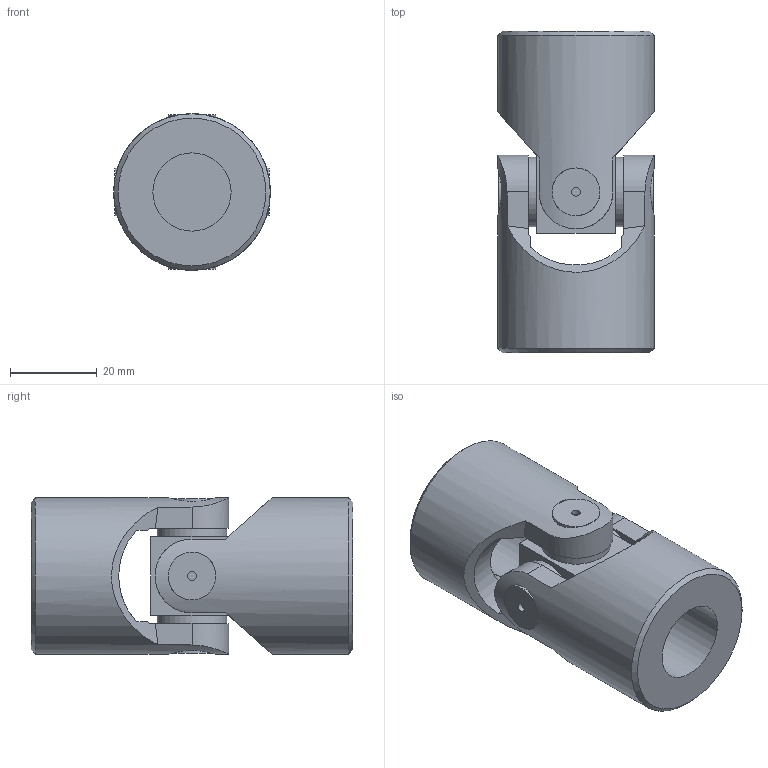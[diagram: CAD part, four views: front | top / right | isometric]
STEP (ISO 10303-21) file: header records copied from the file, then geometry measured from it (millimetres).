
FILE_DESCRIPTION(/* description */ ('EXTENSIBLE TRANSIMISSIONS Series G DIN 808 -2-'),/* implementation_level */ '2;1');
FILE_NAME(/* name */ '\\SRV2016\societa\Stefano\Disegni 3D\Dis. Clienti\0000Catalogo 3D\01Singoli G-GB\SG0S1800.stp',/* time_stamp */ '2021-11-08T16:55:44+01:00',/* author */ ('acquisti'),/* organization */ ('MARIOFERRI'),/* preprocessor_version */ 'ST-DEVELOPER v15.6',/* originating_system */ 'Autodesk Inventor 2015',/* authorisation */ '');
FILE_SCHEMA (('AUTOMOTIVE_DESIGN { 1 0 10303 214 3 1 1 }'));
Length unit declared in the file: millimetre
Products named in the file (3): 2G SFE; 2G MOS; Assieme3
Assembly tree (3 placements, depth 2):
  Assieme3
    2G SFE
    2G MOS  x2
Bounding box: 36 x 74 x 36 mm (x, y, z)
Volume: 50135.5 mm3; surface area: 16485.8 mm2
Topology: 3 solids, 3 shells, 84 faces, 194 edges, 126 vertices
Faces by surface type: plane 36, cylinder 34, cone 12, torus 2
Full cylindrical faces by diameter (mm): 2 x4, 16 x4, 18 x2, 20 x2, 36 x2
Entity records: 1559 total; most frequent: CARTESIAN_POINT 490, DIRECTION 208, ORIENTED_EDGE 192, EDGE_CURVE 96, AXIS2_PLACEMENT_3D 92, EDGE_LOOP 70, VERTEX_POINT 70, FACE_OUTER_BOUND 49
